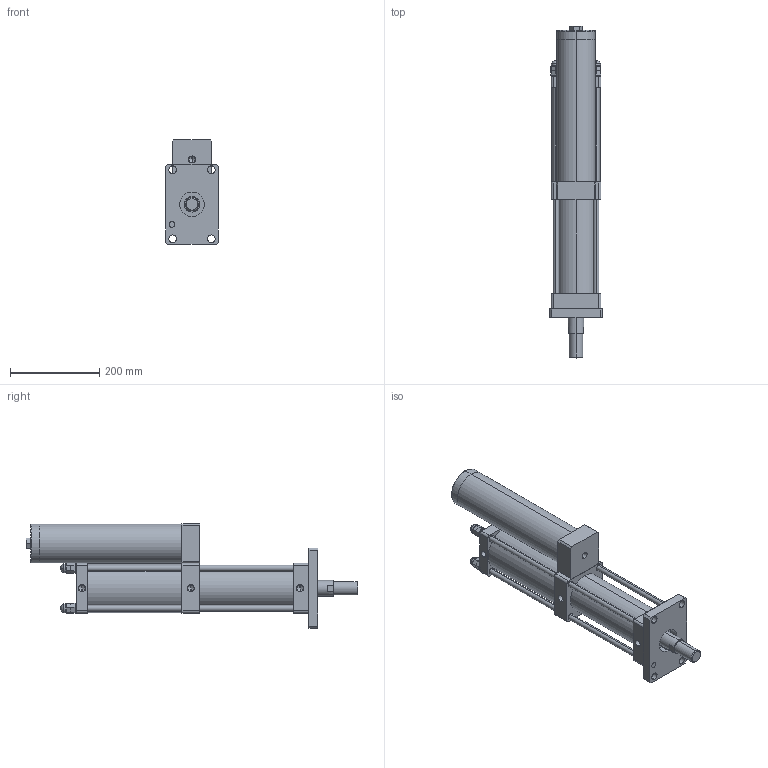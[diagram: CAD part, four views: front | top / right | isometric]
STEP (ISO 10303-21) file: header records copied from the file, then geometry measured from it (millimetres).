
FILE_DESCRIPTION (( 'STEP AP203' ), '1' );
FILE_NAME ('CPT-80-150-10-8T.STEP', '2016-03-11T03:13:07', ( 'WIN' ), ( '' ), 'SwSTEP 2.0', 'SolidWorks 2014', '' );
FILE_SCHEMA (( 'CONFIG_CONTROL_DESIGN' ));
Length unit declared in the file: millimetre
Products named in the file (1): CPT-80-150-10-8T
Bounding box: 118 x 745 x 235 mm (x, y, z)
Volume: 5886566.8 mm3; surface area: 674176.7 mm2
Topology: 17 solids, 17 shells, 389 faces, 959 edges, 560 vertices
Faces by surface type: plane 181, cylinder 90, bspline 48, torus 46, cone 24
Entity records: 12577 total; most frequent: CARTESIAN_POINT 3667, DIRECTION 1874, ORIENTED_EDGE 1786, EDGE_CURVE 893, AXIS2_PLACEMENT_3D 687, VERTEX_POINT 560, LINE 500, VECTOR 500
